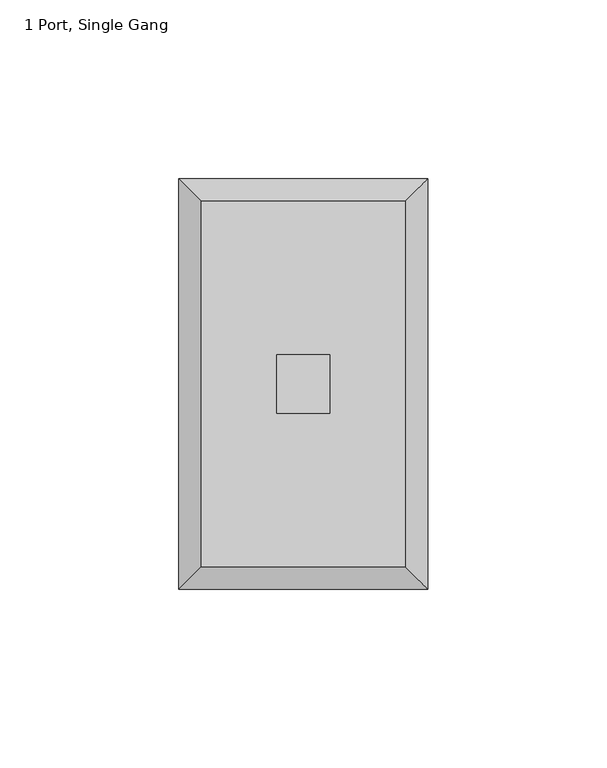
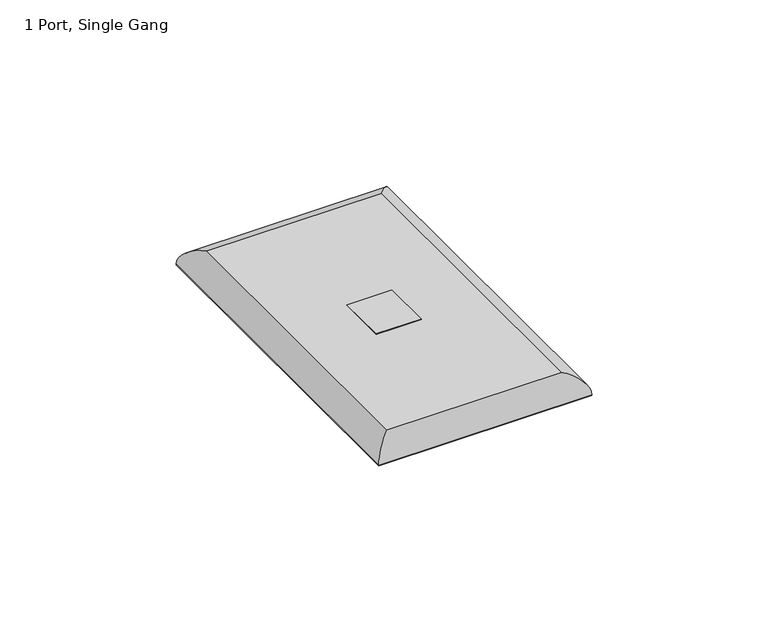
"""IFC4 building model written with IfcOpenShell, lengths in millimetres: electric appliance geometry, Data_Device-Work_Area-Leviton-QuickPort-Wallplate : 1 Port, Single Gang."""

from ifc_helpers import new_model, si_unit, frame, origin, origin_with_axes, place, context, project, spatial, polyline, ellipse_curve, outline, extrude, source, transform, mapped, element, save
from ifc_brep_helpers import plane_surface, cylinder_surface, advanced_brep


def electric_appliance_1_port_single_gang_666bba42(model_context):
    return source(origin(), model_context, "Body", "SolidModel", [
        extrude(outline(polyline([(-15.6591, 16.4465), (-15.6591, -0.0635), (-30.3911, -0.0635), (-30.3911, 16.4465), (-15.6591, 16.4465)])), origin_with_axes(), (0.0, 0.0, 1.0), 6.35),
        advanced_brep(
        [(5.5499, -42.9895, 6.35), (5.5499, 59.3725, 6.35), (-51.6001, 59.3725, 6.35), (-51.6001, -42.9895, 6.35), (-30.3911, 16.4465, 6.35), (-15.6591, 16.4465, 6.35), (-15.6591, -0.0635, 6.35), (-30.3911, -0.0635, 6.35), (11.8999, 65.7225, 0.0), (11.8999, -49.3395, 0.0), (-57.9501, -49.3395, 0.0), (-57.9501, 65.7225, 0.0), (-15.6591, 16.4465, 0.0), (-30.3911, 16.4465, 0.0), (-30.3911, -0.0635, 0.0), (-15.6591, -0.0635, 0.0), (-57.9501, 65.7225, 0.254), (11.8999, 65.7225, 0.254), (-57.9501, -49.3395, 0.254), (11.8999, -49.3395, 0.254)],
        [
            (0, 1),
            (1, 2),
            (2, 3),
            (3, 0),
            (4, 5),
            (5, 6),
            (6, 7),
            (7, 4),
            (8, 9),
            (9, 10),
            (10, 11),
            (11, 8),
            (12, 13),
            (13, 14),
            (14, 15),
            (15, 12),
            (11, 16),
            (16, 17),
            (17, 8),
            (10, 18),
            (18, 16),
            (9, 19),
            (19, 18),
            (17, 19),
            (4, 13),
            (12, 5),
            (7, 14),
            (6, 15),
            (0, 19, ellipse_curve(frame((5.5499, -42.9895, -0.0052917), z_axis=(0.7071067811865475, 0.7071067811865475, 0.0), x_axis=(0.7071067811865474, -0.7071067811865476, 0.0)), 8.9877397, 6.3552917)),
            (17, 1, ellipse_curve(frame((5.5499, 59.3725, -0.0052917), z_axis=(0.7071067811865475, -0.7071067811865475, 0.0), x_axis=(-0.7071067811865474, -0.7071067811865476, 0.0)), 8.9877397, 6.3552917)),
            (3, 18, ellipse_curve(frame((-51.6001, -42.9895, -0.0052917), z_axis=(0.7071067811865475, -0.7071067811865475, 0.0), x_axis=(-0.7071067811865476, -0.7071067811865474, 0.0)), 8.9877397, 6.3552917)),
            (2, 16, ellipse_curve(frame((-51.6001, 59.3725, -0.0052917), z_axis=(-0.7071067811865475, -0.7071067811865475, 0.0), x_axis=(-0.7071067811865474, 0.7071067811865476, 0.0)), 8.9877397, 6.3552917)),
        ],
        [
            plane_surface(frame((-57.9501, 65.7225, 6.35), z_axis=(0.0, 0.0, 1.0), x_axis=(-1.0, 0.0, 0.0))),
            plane_surface(frame((-57.9501, 65.7225, 0.0), z_axis=(0.0, 0.0, -1.0), x_axis=(1.0, 0.0, 0.0))),
            plane_surface(frame((11.8999, 65.7225, 6.35), z_axis=(0.0, 1.0, 0.0), x_axis=(0.0, 0.0, -1.0))),
            plane_surface(frame((-57.9501, 65.7225, 6.35), z_axis=(-1.0, 0.0, 0.0), x_axis=(0.0, 0.0, -1.0))),
            plane_surface(frame((-57.9501, -49.3395, 6.35), z_axis=(0.0, -1.0, 0.0), x_axis=(0.0, 0.0, -1.0))),
            plane_surface(frame((11.8999, -49.3395, 6.35), z_axis=(1.0, 0.0, 0.0), x_axis=(0.0, 0.0, -1.0))),
            plane_surface(frame((-15.6591, 16.4465, 6.35), z_axis=(0.0, -1.0, 0.0), x_axis=(0.0, 0.0, -1.0))),
            plane_surface(frame((-30.3911, 16.4465, 6.35), z_axis=(1.0, 0.0, 0.0), x_axis=(0.0, 0.0, -1.0))),
            plane_surface(frame((-30.3911, -0.0635, 6.35), z_axis=(0.0, 1.0, 0.0), x_axis=(0.0, 0.0, -1.0))),
            plane_surface(frame((-15.6591, -0.0635, 6.35), z_axis=(-1.0, 0.0, 0.0), x_axis=(0.0, 0.0, -1.0))),
            cylinder_surface(frame((5.5499, 65.7225, -0.0052917), z_axis=(0.0, -1.0, 0.0), x_axis=(1.0, 0.0, 0.0)), 6.3552917),
            cylinder_surface(frame((11.8999, -42.9895, -0.0052917), z_axis=(-1.0, 0.0, 0.0), x_axis=(0.0, -1.0, 0.0)), 6.3552917),
            cylinder_surface(frame((-51.6001, -49.3395, -0.0052917), z_axis=(0.0, 1.0, 0.0), x_axis=(-1.0, 0.0, 0.0)), 6.3552917),
            cylinder_surface(frame((-57.9501, 59.3725, -0.0052917), z_axis=(1.0, 0.0, 0.0), x_axis=(0.0, 1.0, 0.0)), 6.3552917),
        ],
        [
            (0, [[1, 2, 3, 4], [5, 6, 7, 8]]),
            (1, [[9, 10, 11, 12], [13, 14, 15, 16]]),
            (2, [[-12, 17, 18, 19]]),
            (3, [[-11, 20, 21, -17]]),
            (4, [[-10, 22, 23, -20]]),
            (5, [[-9, -19, 24, -22]]),
            (6, [[25, -13, 26, -5]]),
            (7, [[-25, -8, 27, -14]]),
            (8, [[-27, -7, 28, -15]]),
            (9, [[-26, -16, -28, -6]]),
            (10, [[29, -24, 30, -1]]),
            (11, [[-29, -4, 31, -23]]),
            (12, [[-31, -3, 32, -21]]),
            (13, [[-30, -18, -32, -2]]),
        ],
    ),
        extrude(outline(polyline([(11.6459, 65.4685), (11.6459, -49.0855), (-57.6961, -49.0855), (-57.6961, 65.4685), (11.6459, 65.4685)]), holes=[polyline([(-15.6591, 16.4465), (-30.3911, 16.4465), (-30.3911, -0.0635), (-15.6591, -0.0635), (-15.6591, 16.4465)])]), origin_with_axes(), (0.0, 0.0, 1.0), 0.254),
    ])


if __name__ == "__main__":
    model = new_model("IFC4")
    model_context = context("Model", 3, world=origin())
    ifc_project = project(units=[si_unit("LENGTHUNIT", "METRE", prefix="MILLI")], contexts=[model_context])
    site = spatial("IfcSite", under=ifc_project)
    building = spatial("IfcBuilding", under=site)
    placement = place(None, origin())
    electric_appliance_1_port_single_gang_shape = electric_appliance_1_port_single_gang_666bba42(model_context)
    element("IfcElectricAppliance", 1, ObjectType="Data_Device-Work_Area-Leviton-QuickPort-Wallplate : 1 Port, Single Gang", at=placement, inside=building, context=model_context, shape_type="MappedRepresentation", body=[
        mapped(electric_appliance_1_port_single_gang_shape, transform((0.0, 0.0, 0.0), x_axis=(1.0, 0.0, 0.0), y_axis=(0.0, 1.0, 0.0), z_axis=(0.0, 0.0, 1.0))),
    ])
    save(model, "model.ifc")
